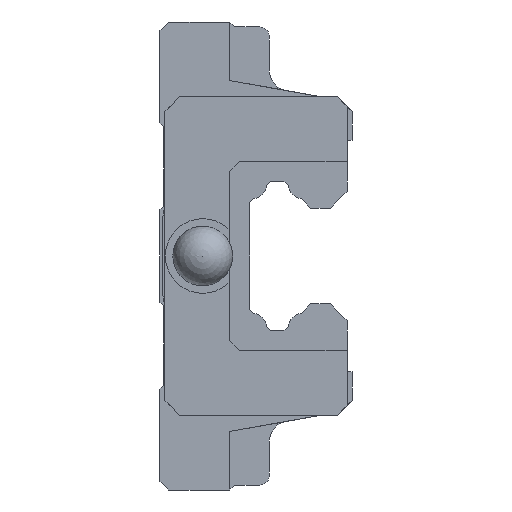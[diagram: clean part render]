
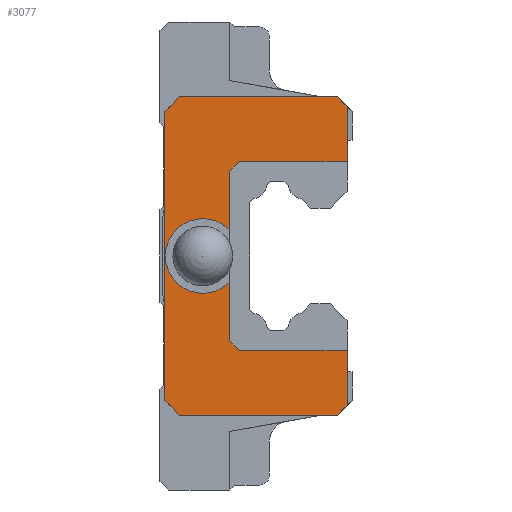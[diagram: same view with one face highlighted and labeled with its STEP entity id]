
A CAD part, left-side view. The second image highlights one B-rep face of the part: STEP entity #3077.
In plain terms, the highlighted planar face has unit normal (-1, 0, 0).
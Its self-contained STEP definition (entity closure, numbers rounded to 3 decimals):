
#756=ORIENTED_EDGE('',*,*,#1335,.T.);
#757=ORIENTED_EDGE('',*,*,#1336,.T.);
#758=ORIENTED_EDGE('',*,*,#1125,.F.);
#759=ORIENTED_EDGE('',*,*,#1310,.T.);
#760=ORIENTED_EDGE('',*,*,#1017,.F.);
#761=ORIENTED_EDGE('',*,*,#1005,.F.);
#762=ORIENTED_EDGE('',*,*,#1107,.F.);
#763=ORIENTED_EDGE('',*,*,#1050,.F.);
#764=ORIENTED_EDGE('',*,*,#1060,.F.);
#765=ORIENTED_EDGE('',*,*,#1311,.T.);
#766=ORIENTED_EDGE('',*,*,#1131,.F.);
#767=ORIENTED_EDGE('',*,*,#1337,.T.);
#768=ORIENTED_EDGE('',*,*,#1338,.T.);
#769=ORIENTED_EDGE('',*,*,#1339,.T.);
#1005=EDGE_CURVE('',#1433,#1434,#1727,.T.);
#1017=EDGE_CURVE('',#1434,#1444,#1738,.T.);
#1050=EDGE_CURVE('',#1472,#1473,#1770,.T.);
#1060=EDGE_CURVE('',#1481,#1472,#1780,.T.);
#1107=EDGE_CURVE('',#1473,#1433,#1825,.T.);
#1125=EDGE_CURVE('',#1531,#1532,#1843,.T.);
#1131=EDGE_CURVE('',#1537,#1538,#1849,.T.);
#1310=EDGE_CURVE('',#1531,#1444,#1984,.T.);
#1311=EDGE_CURVE('',#1481,#1538,#1985,.T.);
#1335=EDGE_CURVE('',#1662,#1663,#2001,.T.);
#1336=EDGE_CURVE('',#1663,#1532,#2002,.T.);
#1337=EDGE_CURVE('',#1537,#1664,#2003,.T.);
#1338=EDGE_CURVE('',#1664,#1665,#2004,.T.);
#1339=EDGE_CURVE('',#1665,#1662,#2005,.T.);
#1433=VERTEX_POINT('',#4259);
#1434=VERTEX_POINT('',#4261);
#1444=VERTEX_POINT('',#4285);
#1472=VERTEX_POINT('',#4351);
#1473=VERTEX_POINT('',#4353);
#1481=VERTEX_POINT('',#4371);
#1531=VERTEX_POINT('',#4499);
#1532=VERTEX_POINT('',#4501);
#1537=VERTEX_POINT('',#4512);
#1538=VERTEX_POINT('',#4514);
#1662=VERTEX_POINT('',#4931);
#1663=VERTEX_POINT('',#4932);
#1664=VERTEX_POINT('',#4935);
#1665=VERTEX_POINT('',#4937);
#1727=LINE('',#4260,#2081);
#1738=LINE('',#4284,#2092);
#1770=LINE('',#4352,#2124);
#1780=LINE('',#4372,#2134);
#1825=LINE('',#4465,#2179);
#1843=LINE('',#4500,#2197);
#1849=LINE('',#4513,#2203);
#1984=LINE('',#4876,#2338);
#1985=LINE('',#4878,#2339);
#2001=LINE('',#4930,#2355);
#2002=LINE('',#4933,#2356);
#2003=LINE('',#4934,#2357);
#2004=LINE('',#4936,#2358);
#2005=LINE('',#4938,#2359);
#2081=VECTOR('',#3412,1000.);
#2092=VECTOR('',#3429,1000.);
#2124=VECTOR('',#3475,1000.);
#2134=VECTOR('',#3487,1000.);
#2179=VECTOR('',#3556,1000.);
#2197=VECTOR('',#3580,1000.);
#2203=VECTOR('',#3588,1000.);
#2338=VECTOR('',#3955,1000.);
#2339=VECTOR('',#3958,1000.);
#2355=VECTOR('',#4022,1000.);
#2356=VECTOR('',#4023,1000.);
#2357=VECTOR('',#4024,1000.);
#2358=VECTOR('',#4025,1000.);
#2359=VECTOR('',#4026,1000.);
#2568=EDGE_LOOP('',(#756,#757,#758,#759,#760,#761,#762,#763,#764,#765,#766,
#767,#768,#769));
#2772=FACE_BOUND('',#2568,.T.);
#2922=PLANE('',#3326);
#3077=ADVANCED_FACE('',(#2772),#2922,.F.);
#3326=AXIS2_PLACEMENT_3D('',#4929,#4020,#4021);
#3412=DIRECTION('',(0.,-0.707,0.707));
#3429=DIRECTION('',(0.,-1.,0.));
#3475=DIRECTION('',(0.,0.707,0.707));
#3487=DIRECTION('',(0.,1.,0.));
#3556=DIRECTION('',(0.,0.,1.));
#3580=DIRECTION('',(0.,0.,-1.));
#3588=DIRECTION('',(0.,0.,-1.));
#3955=DIRECTION('',(0.,0.707,0.707));
#3958=DIRECTION('',(0.,-0.707,0.707));
#4020=DIRECTION('',(1.,0.,0.));
#4021=DIRECTION('',(0.,0.,-1.));
#4022=DIRECTION('',(0.,-0.707,0.707));
#4023=DIRECTION('',(0.,-1.,0.));
#4024=DIRECTION('',(0.,1.,0.));
#4025=DIRECTION('',(0.,0.707,0.707));
#4026=DIRECTION('',(0.,0.,1.));
#4259=CARTESIAN_POINT('',(-35.3,18.8,14.5));
#4260=CARTESIAN_POINT('',(-35.3,18.8,14.5));
#4261=CARTESIAN_POINT('',(-35.3,17.3,16.));
#4284=CARTESIAN_POINT('',(-35.3,19.3,16.));
#4285=CARTESIAN_POINT('',(-35.3,1.5,16.));
#4351=CARTESIAN_POINT('',(-35.3,17.3,-16.));
#4352=CARTESIAN_POINT('',(-35.3,17.3,-16.));
#4353=CARTESIAN_POINT('',(-35.3,18.8,-14.5));
#4371=CARTESIAN_POINT('',(-35.3,1.5,-16.));
#4372=CARTESIAN_POINT('',(-35.3,0.,-16.));
#4465=CARTESIAN_POINT('',(-35.3,18.8,-14.5));
#4499=CARTESIAN_POINT('',(-35.3,0.5,15.));
#4500=CARTESIAN_POINT('',(-35.3,0.5,11.6));
#4501=CARTESIAN_POINT('',(-35.3,0.5,9.5));
#4512=CARTESIAN_POINT('',(-35.3,0.5,-9.5));
#4513=CARTESIAN_POINT('',(-35.3,0.5,11.6));
#4514=CARTESIAN_POINT('',(-35.3,0.5,-15.));
#4876=CARTESIAN_POINT('',(-35.3,1.5,16.));
#4878=CARTESIAN_POINT('',(-35.3,0.5,-15.));
#4929=CARTESIAN_POINT('',(-35.3,0.,0.));
#4930=CARTESIAN_POINT('',(-35.3,12.3,8.5));
#4931=CARTESIAN_POINT('',(-35.3,12.3,8.5));
#4932=CARTESIAN_POINT('',(-35.3,11.3,9.5));
#4933=CARTESIAN_POINT('',(-35.3,11.3,9.5));
#4934=CARTESIAN_POINT('',(-35.3,0.5,-9.5));
#4935=CARTESIAN_POINT('',(-35.3,11.3,-9.5));
#4936=CARTESIAN_POINT('',(-35.3,11.3,-9.5));
#4937=CARTESIAN_POINT('',(-35.3,12.3,-8.5));
#4938=CARTESIAN_POINT('',(-35.3,12.3,-8.5));
